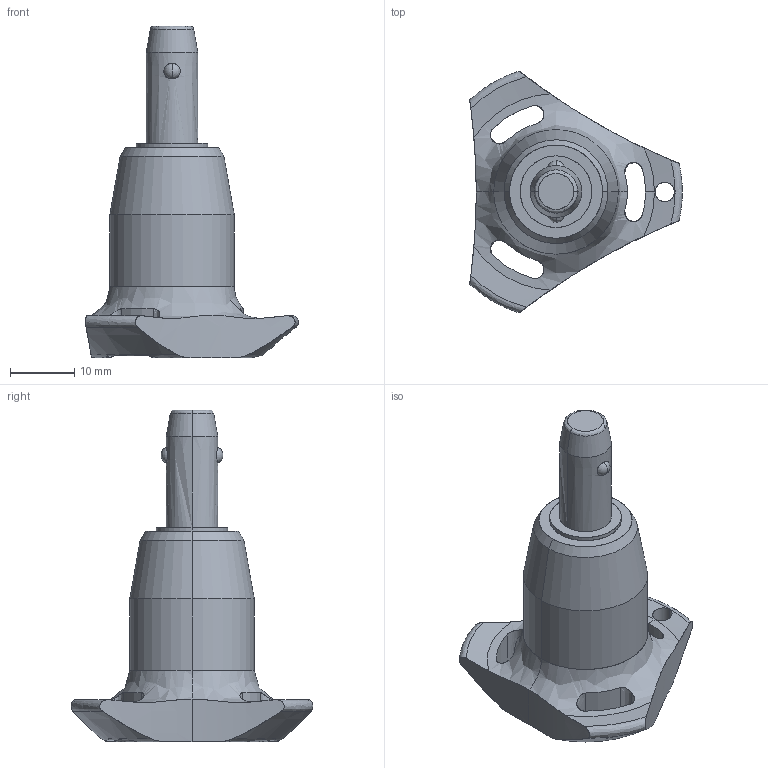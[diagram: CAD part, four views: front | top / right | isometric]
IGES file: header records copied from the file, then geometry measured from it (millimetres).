
Start section: SolidWorks IGES file using analytic representation for surfaces
Global section: file name: C:\Users\ianosborn\Desktop\QR1724_v2\QR1724_v2_20251112_IGES\QR1724.M08-010-S.igs; native system: SolidWorks 2019; preprocessor: SolidWorks 2019; author: IanOsborn; date: 251112.124739; units: millimetre
Bounding box: 33 x 37.51 x 51.5 mm (x, y, z)
Surface area: 4305.9 mm2 (no closed solid volume)
Topology: 0 solids, 0 shells, 65 faces, 1274 edges, 1270 vertices
Faces by surface type: revolution 50, bspline 15
